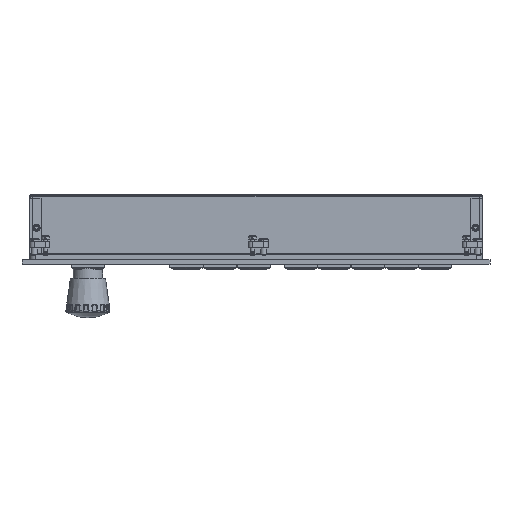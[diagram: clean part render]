
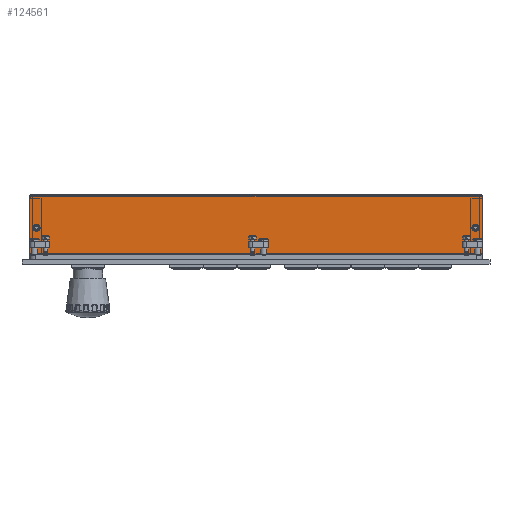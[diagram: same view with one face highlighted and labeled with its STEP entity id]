
A CAD part, left-side view. The second image highlights one B-rep face of the part: STEP entity #124561.
In plain terms, the highlighted planar face has unit normal (-1, 0, 0).
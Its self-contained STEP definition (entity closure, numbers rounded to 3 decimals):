
#120911=CARTESIAN_POINT('',(-285.3,-199.35,32.5));
#120912=VERTEX_POINT('',#120911);
#120913=CARTESIAN_POINT('',(-285.3,-196.1,32.5));
#120914=DIRECTION('',(1.0,0.0,0.0));
#120915=DIRECTION('',(0.0,-1.0,0.0));
#120916=AXIS2_PLACEMENT_3D('',#120913,#120914,#120915);
#120917=CIRCLE('',#120916,3.25);
#120918=EDGE_CURVE('',#120912,#120912,#120917,.T.);
#121105=CARTESIAN_POINT('',(-285.3,192.85,32.5));
#121106=VERTEX_POINT('',#121105);
#121107=CARTESIAN_POINT('',(-285.3,196.1,32.5));
#121108=DIRECTION('',(1.0,0.0,0.0));
#121109=DIRECTION('',(0.0,-1.0,0.0));
#121110=AXIS2_PLACEMENT_3D('',#121107,#121108,#121109);
#121111=CIRCLE('',#121110,3.25);
#121112=EDGE_CURVE('',#121106,#121106,#121111,.T.);
#123280=CARTESIAN_POINT('',(-285.3,-202.1,9.5));
#123281=VERTEX_POINT('',#123280);
#123289=CARTESIAN_POINT('',(-285.3,202.1,9.5));
#123290=VERTEX_POINT('',#123289);
#123291=CARTESIAN_POINT('',(-285.3,202.1,9.5));
#123292=DIRECTION('',(0.0,-1.0,0.0));
#123293=VECTOR('',#123292,404.2);
#123294=LINE('',#123291,#123293);
#123295=EDGE_CURVE('',#123290,#123281,#123294,.T.);
#123567=CARTESIAN_POINT('',(-285.3,202.1,60.5));
#123568=VERTEX_POINT('',#123567);
#124100=CARTESIAN_POINT('',(-285.3,-202.1,60.5));
#124101=VERTEX_POINT('',#124100);
#124442=CARTESIAN_POINT('',(-285.3,202.1,60.5));
#124443=DIRECTION('',(0.0,-1.0,0.0));
#124444=VECTOR('',#124443,404.2);
#124445=LINE('',#124442,#124444);
#124446=EDGE_CURVE('',#123568,#124101,#124445,.T.);
#124534=CARTESIAN_POINT('',(-285.3,0.,35.));
#124535=DIRECTION('',(1.0,0.0,0.0));
#124536=DIRECTION('',(0.0,0.0,-1.0));
#124537=AXIS2_PLACEMENT_3D('',#124534,#124535,#124536);
#124538=PLANE('',#124537);
#124539=ORIENTED_EDGE('',*,*,#123295,.T.);
#124540=CARTESIAN_POINT('',(-285.3,-202.1,9.5));
#124541=DIRECTION('',(0.0,0.0,1.0));
#124542=VECTOR('',#124541,51.);
#124543=LINE('',#124540,#124542);
#124544=EDGE_CURVE('',#123281,#124101,#124543,.T.);
#124545=ORIENTED_EDGE('',*,*,#124544,.T.);
#124546=ORIENTED_EDGE('',*,*,#124446,.F.);
#124547=CARTESIAN_POINT('',(-285.3,202.1,60.5));
#124548=DIRECTION('',(0.0,0.0,-1.0));
#124549=VECTOR('',#124548,51.);
#124550=LINE('',#124547,#124549);
#124551=EDGE_CURVE('',#123568,#123290,#124550,.T.);
#124552=ORIENTED_EDGE('',*,*,#124551,.T.);
#124553=EDGE_LOOP('',(#124539,#124545,#124546,#124552));
#124554=FACE_OUTER_BOUND('',#124553,.T.);
#124555=ORIENTED_EDGE('',*,*,#120918,.T.);
#124556=EDGE_LOOP('',(#124555));
#124557=FACE_BOUND('',#124556,.T.);
#124558=ORIENTED_EDGE('',*,*,#121112,.T.);
#124559=EDGE_LOOP('',(#124558));
#124560=FACE_BOUND('',#124559,.T.);
#124561=ADVANCED_FACE('',(#124554,#124557,#124560),#124538,.F.);
